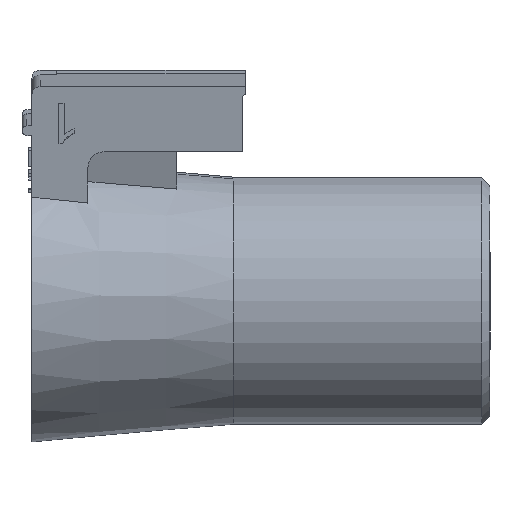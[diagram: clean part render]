
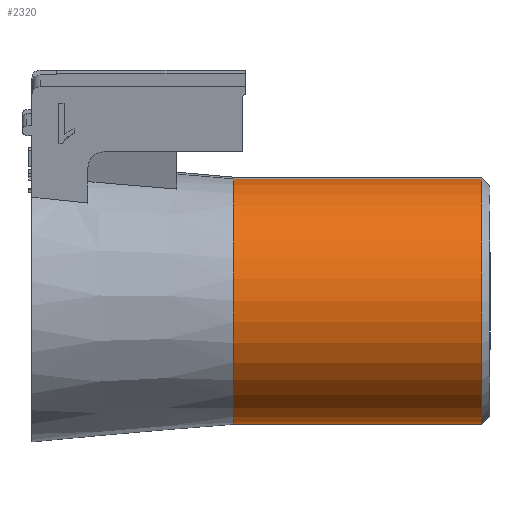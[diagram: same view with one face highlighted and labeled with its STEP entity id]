
A CAD part, front view. The second image highlights one B-rep face of the part: STEP entity #2320.
In plain terms, the highlighted cylindrical face has radius 7.5 mm (diameter 15 mm), a partial arc.
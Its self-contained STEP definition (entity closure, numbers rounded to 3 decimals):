
#75=CIRCLE('',#2456,7.5);
#76=CIRCLE('',#2458,7.5);
#96=CYLINDRICAL_SURFACE('',#2457,7.5);
#315=FACE_OUTER_BOUND('',#446,.T.);
#446=EDGE_LOOP('',(#2049,#2050,#2051,#2052));
#621=LINE('',#3947,#841);
#639=LINE('',#3990,#859);
#841=VECTOR('',#2776,10.);
#859=VECTOR('',#2808,10.);
#1077=VERTEX_POINT('',#3944);
#1078=VERTEX_POINT('',#3946);
#1095=VERTEX_POINT('',#3987);
#1096=VERTEX_POINT('',#3989);
#1380=EDGE_CURVE('',#1078,#1077,#621,.T.);
#1402=EDGE_CURVE('',#1096,#1095,#639,.T.);
#1438=EDGE_CURVE('',#1096,#1077,#75,.T.);
#1439=EDGE_CURVE('',#1078,#1095,#76,.T.);
#2049=ORIENTED_EDGE('',*,*,#1439,.F.);
#2050=ORIENTED_EDGE('',*,*,#1380,.T.);
#2051=ORIENTED_EDGE('',*,*,#1438,.F.);
#2052=ORIENTED_EDGE('',*,*,#1402,.T.);
#2320=ADVANCED_FACE('',(#315),#96,.T.);
#2456=AXIS2_PLACEMENT_3D('',#4064,#2881,#2882);
#2457=AXIS2_PLACEMENT_3D('',#4065,#2883,#2884);
#2458=AXIS2_PLACEMENT_3D('',#4066,#2885,#2886);
#2776=DIRECTION('',(1.,0.,0.));
#2808=DIRECTION('',(-1.,0.,0.));
#2881=DIRECTION('center_axis',(1.,0.,0.));
#2882=DIRECTION('ref_axis',(0.,1.,0.));
#2883=DIRECTION('center_axis',(-1.,0.,0.));
#2884=DIRECTION('ref_axis',(0.,-1.,0.));
#2885=DIRECTION('center_axis',(-1.,0.,0.));
#2886=DIRECTION('ref_axis',(0.,-0.985,-0.174));
#3944=CARTESIAN_POINT('',(26.5,0.,7.5));
#3946=CARTESIAN_POINT('',(11.43,0.,7.5));
#3947=CARTESIAN_POINT('',(19.215,0.,7.5));
#3987=CARTESIAN_POINT('',(11.43,-1.302,7.386));
#3989=CARTESIAN_POINT('',(26.5,-1.302,7.386));
#3990=CARTESIAN_POINT('',(19.215,-1.302,7.386));
#4064=CARTESIAN_POINT('Origin',(26.5,0.,
0.));
#4065=CARTESIAN_POINT('Origin',(19.215,0.,
0.));
#4066=CARTESIAN_POINT('Origin',(11.43,0.,
0.));
